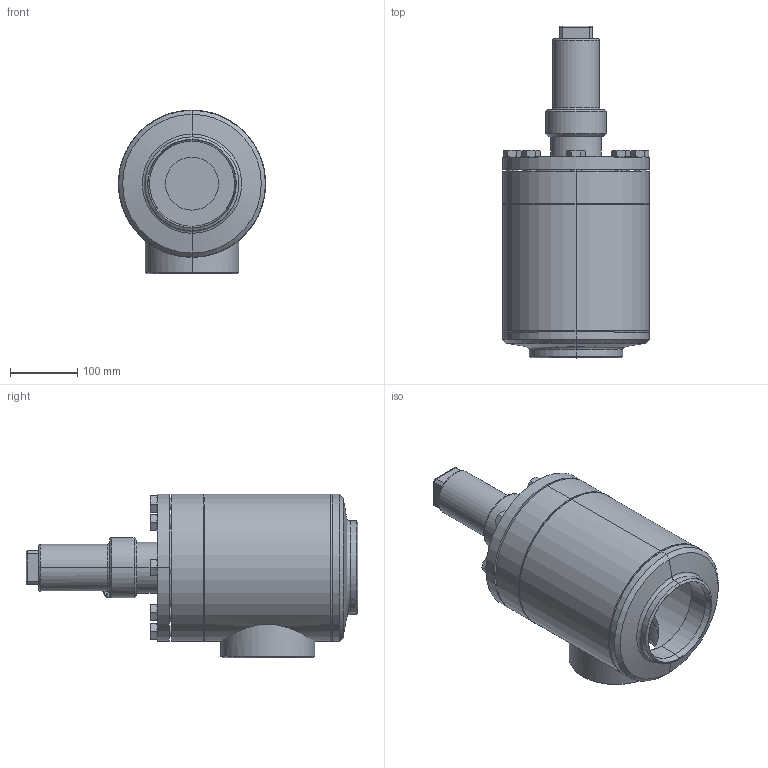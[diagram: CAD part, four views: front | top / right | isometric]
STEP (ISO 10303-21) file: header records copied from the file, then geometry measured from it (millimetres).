
FILE_DESCRIPTION (( 'STEP AP214' ), '1' );
FILE_NAME ('RVAK27400D20A5A3AA00_DN125_R1_PS40.STEP', '2010-06-16T11:11:23', ( 'Eckhard Grams' ), ( 'AWP Kälte Klima Armaturen GmbH' ), 'SwSTEP 2.0', 'SolidWorks 2002296', '' );
FILE_SCHEMA (( 'AUTOMOTIVE_DESIGN' ));
Length unit declared in the file: millimetre
Products named in the file (12): RVAK27400D20A5A3AA00_DN125_R1_PS40; RVA29300E20_Deck+Schr-DN125_Standard; Deckel29300E20-DN125_Standard; Sechskantschraube-DIN933_M16x 45; Geh,kpl 16300E20-5030AA1_DN125_R1_Standard; Boden16300-DN125_Standard; Rohrstutzen-A16300a-20_R1_Standard; bead Geh,kpl 16400-20-2_Standard; bead Geh,kpl 16400-20-1_Standard; Gehäuse16300-DN125_Standard; Kopfstück16300-DN125_Standard; Kappe 16402-21_DN125-150 (M76x3)_Standard
Assembly tree (18 placements, depth 3):
  RVAK27400D20A5A3AA00_DN125_R1_PS40
    Kappe 16402-21_DN125-150 (M76x3)_Standard
    Geh,kpl 16300E20-5030AA1_DN125_R1_Standard
      Gehäuse16300-DN125_Standard
      bead Geh,kpl 16400-20-2_Standard
      Kopfstück16300-DN125_Standard
      Boden16300-DN125_Standard
      Rohrstutzen-A16300a-20_R1_Standard
      bead Geh,kpl 16400-20-1_Standard
    RVA29300E20_Deck+Schr-DN125_Standard
      Sechskantschraube-DIN933_M16x 45  x8
      Deckel29300E20-DN125_Standard
Bounding box: 219.55 x 495 x 244.27 mm (x, y, z)
Volume: 5542226.1 mm3; surface area: 799908.4 mm2
Topology: 16 solids, 16 shells, 378 faces, 813 edges, 483 vertices
Faces by surface type: cone 130, plane 113, cylinder 100, bspline 19, torus 16
Entity records: 12510 total; most frequent: CARTESIAN_POINT 7288, DIRECTION 987, ORIENTED_EDGE 898, EDGE_CURVE 449, AXIS2_PLACEMENT_3D 427, VERTEX_POINT 273, EDGE_LOOP 246, CIRCLE 220
